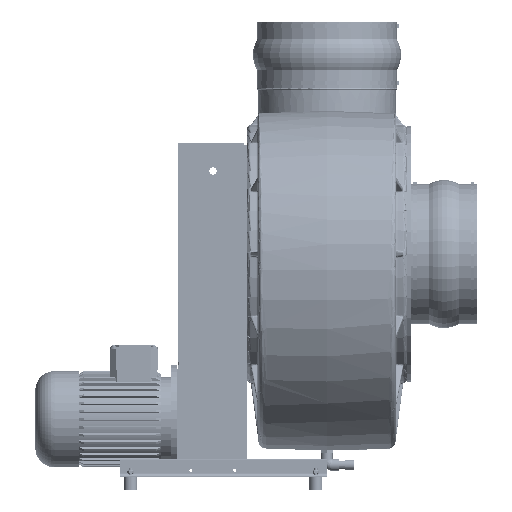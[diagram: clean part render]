
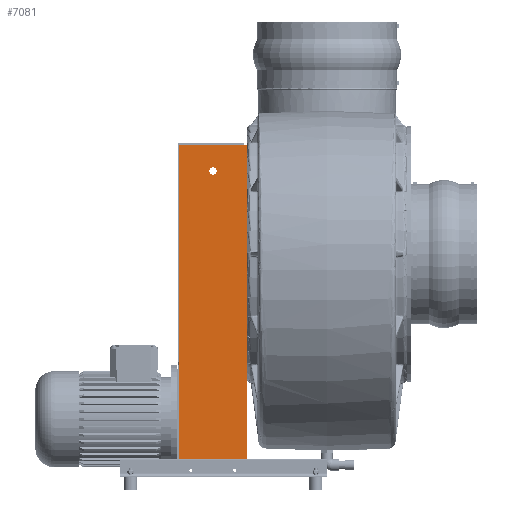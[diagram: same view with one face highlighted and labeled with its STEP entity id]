
A CAD part, left-side view. The second image highlights one B-rep face of the part: STEP entity #7081.
In plain terms, the highlighted planar face has unit normal (-1, 0, 0).
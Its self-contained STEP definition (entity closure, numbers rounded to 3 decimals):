
#7081 = ADVANCED_FACE( '', ( #15674, #15675, #15676, #15677 ), #15678, .F. );
#15674 = FACE_BOUND( '', #45721, .T. );
#15675 = FACE_BOUND( '', #45722, .T. );
#15676 = FACE_BOUND( '', #45723, .T. );
#15677 = FACE_OUTER_BOUND( '', #45724, .T. );
#15678 = PLANE( '', #45725 );
#45721 = EDGE_LOOP( '', ( #107275 ) );
#45722 = EDGE_LOOP( '', ( #107276 ) );
#45723 = EDGE_LOOP( '', ( #107277 ) );
#45724 = EDGE_LOOP( '', ( #107278, #107279, #107280, #107281 ) );
#45725 = AXIS2_PLACEMENT_3D( '', #107282, #107283, #107284 );
#107275 = ORIENTED_EDGE( '', *, *, #132531, .T. );
#107276 = ORIENTED_EDGE( '', *, *, #132532, .T. );
#107277 = ORIENTED_EDGE( '', *, *, #132533, .T. );
#107278 = ORIENTED_EDGE( '', *, *, #132534, .T. );
#107279 = ORIENTED_EDGE( '', *, *, #131834, .F. );
#107280 = ORIENTED_EDGE( '', *, *, #132535, .F. );
#107281 = ORIENTED_EDGE( '', *, *, #132536, .T. );
#107282 = CARTESIAN_POINT( '', ( -190., 156., 760. ) );
#107283 = DIRECTION( '', ( 1., 0., 0. ) );
#107284 = DIRECTION( '', ( 0., 0., -1. ) );
#131834 = EDGE_CURVE( '', #142510, #142505, #142512, .T. );
#132531 = EDGE_CURVE( '', #143533, #143533, #143534, .T. );
#132532 = EDGE_CURVE( '', #143535, #143535, #143536, .T. );
#132533 = EDGE_CURVE( '', #143537, #143537, #143538, .T. );
#132534 = EDGE_CURVE( '', #143539, #142505, #143540, .T. );
#132535 = EDGE_CURVE( '', #143541, #142510, #143542, .T. );
#132536 = EDGE_CURVE( '', #143541, #143539, #143543, .T. );
#142505 = VERTEX_POINT( '', #167210 );
#142510 = VERTEX_POINT( '', #167217 );
#142512 = LINE( '', #167220, #167221 );
#143533 = VERTEX_POINT( '', #170246 );
#143534 = CIRCLE( '', #170247, 8.5 );
#143535 = VERTEX_POINT( '', #170248 );
#143536 = CIRCLE( '', #170249, 3.5 );
#143537 = VERTEX_POINT( '', #170250 );
#143538 = CIRCLE( '', #170251, 3.5 );
#143539 = VERTEX_POINT( '', #170252 );
#143540 = LINE( '', #170253, #170254 );
#143541 = VERTEX_POINT( '', #170255 );
#143542 = LINE( '', #170256, #170257 );
#143543 = LINE( '', #170258, #170259 );
#167210 = CARTESIAN_POINT( '', ( -190., 0., 0. ) );
#167217 = CARTESIAN_POINT( '', ( -190., 0., 760. ) );
#167220 = CARTESIAN_POINT( '', ( -190., 0., 760. ) );
#167221 = VECTOR( '', #188907, 1000. );
#170246 = CARTESIAN_POINT( '', ( -190., 78.5, 691.5 ) );
#170247 = AXIS2_PLACEMENT_3D( '', #189742, #189743, #189744 );
#170248 = CARTESIAN_POINT( '', ( -190., 29., 11.5 ) );
#170249 = AXIS2_PLACEMENT_3D( '', #189745, #189746, #189747 );
#170250 = CARTESIAN_POINT( '', ( -190., 129., 11.5 ) );
#170251 = AXIS2_PLACEMENT_3D( '', #189748, #189749, #189750 );
#170252 = CARTESIAN_POINT( '', ( -190., 156., 0. ) );
#170253 = CARTESIAN_POINT( '', ( -190., 156., 0. ) );
#170254 = VECTOR( '', #189751, 1000. );
#170255 = CARTESIAN_POINT( '', ( -190., 156., 760. ) );
#170256 = CARTESIAN_POINT( '', ( -190., 156., 760. ) );
#170257 = VECTOR( '', #189752, 1000. );
#170258 = CARTESIAN_POINT( '', ( -190., 156., 760. ) );
#170259 = VECTOR( '', #189753, 1000. );
#188907 = DIRECTION( '', ( 0., 0., -1. ) );
#189742 = CARTESIAN_POINT( '', ( -190., 78.5, 700. ) );
#189743 = DIRECTION( '', ( 1., 0., 0. ) );
#189744 = DIRECTION( '', ( 0., 0., -1. ) );
#189745 = CARTESIAN_POINT( '', ( -190., 29., 15. ) );
#189746 = DIRECTION( '', ( 1., 0., 0. ) );
#189747 = DIRECTION( '', ( 0., 0., -1. ) );
#189748 = CARTESIAN_POINT( '', ( -190., 129., 15. ) );
#189749 = DIRECTION( '', ( 1., 0., 0. ) );
#189750 = DIRECTION( '', ( 0., 0., -1. ) );
#189751 = DIRECTION( '', ( 0., -1., 0. ) );
#189752 = DIRECTION( '', ( 0., -1., 0. ) );
#189753 = DIRECTION( '', ( 0., 0., -1. ) );
